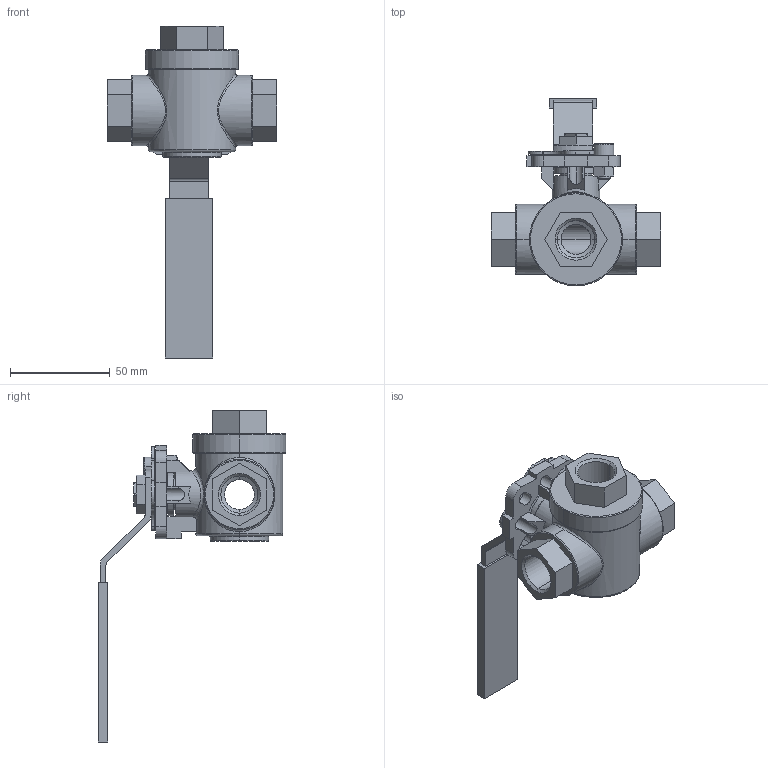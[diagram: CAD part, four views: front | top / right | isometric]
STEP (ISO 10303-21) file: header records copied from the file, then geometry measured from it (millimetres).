
FILE_DESCRIPTION (( 'STEP AP214' ), '1' );
FILE_NAME ('S57D DN15 G1_2 HB FB.step', '2010-10-27T12:15:35', ( '' ), ( '' ), 'SwSTEP 2.0', 'SolidWorks 2010', '' );
FILE_SCHEMA (( 'AUTOMOTIVE_DESIGN' ));
Length unit declared in the file: millimetre
Products named in the file (5): S57D DN15-G1_2 FB; S57D Hendel DN10 FB; DIN 912 M6 x 12 --- 12N_DIN 912 M6 x 12 --- 12N; Hexagon Nut ISO 4032 - M6 - D - N_Hexagon Nut ISO 4032 - M6 - D - N; S57D DN15 G1_2 HB FB
Assembly tree (4 placements, depth 2):
  S57D DN15 G1_2 HB FB
    Hexagon Nut ISO 4032 - M6 - D - N_Hexagon Nut ISO 4032 - M6 - D - N
    S57D DN15-G1_2 FB
    S57D Hendel DN10 FB
    DIN 912 M6 x 12 --- 12N_DIN 912 M6 x 12 --- 12N
Bounding box: 84.8 x 94.28 x 166.53 mm (x, y, z)
Volume: 130855.2 mm3; surface area: 40177.8 mm2
Topology: 4 solids, 4 shells, 319 faces, 820 edges, 513 vertices
Faces by surface type: plane 179, cylinder 85, cone 32, torus 18, bspline 5
Entity records: 11827 total; most frequent: CARTESIAN_POINT 3636, DIRECTION 1669, ORIENTED_EDGE 1636, EDGE_CURVE 818, AXIS2_PLACEMENT_3D 584, VERTEX_POINT 513, VECTOR 501, LINE 501
